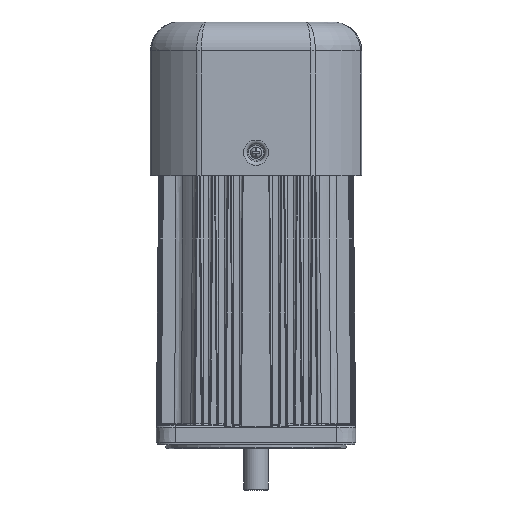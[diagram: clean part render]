
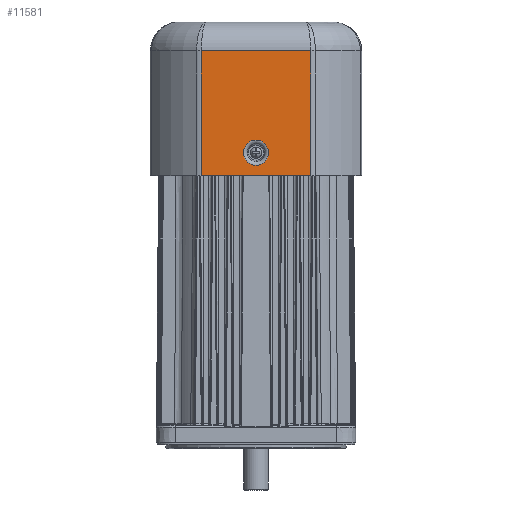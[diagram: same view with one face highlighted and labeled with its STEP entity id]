
A CAD part, front view. The second image highlights one B-rep face of the part: STEP entity #11581.
In plain terms, the highlighted planar face has unit normal (0, -1, 0).
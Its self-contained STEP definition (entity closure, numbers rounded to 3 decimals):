
#13 = DIRECTION ( 'NONE',  ( 0., 1., 0. ) ) ;
#446 = ORIENTED_EDGE ( 'NONE', *, *, #36204, .F. ) ;
#1482 = VERTEX_POINT ( 'NONE', #30275 ) ;
#1580 = DIRECTION ( 'NONE',  ( -1., 0., 0. ) ) ;
#3496 = ORIENTED_EDGE ( 'NONE', *, *, #32524, .T. ) ;
#4381 = FACE_OUTER_BOUND ( 'NONE', #5954, .T. ) ;
#5954 = EDGE_LOOP ( 'NONE', ( #3496, #34551, #446, #9127 ) ) ;
#6241 = LINE ( 'NONE', #20369, #44510 ) ;
#6859 = CARTESIAN_POINT ( 'NONE',  ( -28.395, -54.971, 139. ) ) ;
#7609 = FACE_BOUND ( 'NONE', #32146, .T. ) ;
#7873 = EDGE_CURVE ( 'NONE', #19354, #19354, #47745, .T. ) ;
#9127 = ORIENTED_EDGE ( 'NONE', *, *, #27623, .T. ) ;
#10249 = CARTESIAN_POINT ( 'NONE',  ( -28.395, -54.971, 204. ) ) ;
#10876 = CARTESIAN_POINT ( 'NONE',  ( 28.395, -54.971, 204. ) ) ;
#11581 = ADVANCED_FACE ( 'NONE', ( #7609, #4381 ), #33850, .T. ) ;
#13614 = VERTEX_POINT ( 'NONE', #10249 ) ;
#15039 = DIRECTION ( 'NONE',  ( 0., -1., 0. ) ) ;
#15080 = DIRECTION ( 'NONE',  ( 0., 0., -1. ) ) ;
#15794 = VERTEX_POINT ( 'NONE', #10876 ) ;
#19106 = CARTESIAN_POINT ( 'NONE',  ( 0., -54.971, 139. ) ) ;
#19354 = VERTEX_POINT ( 'NONE', #41402 ) ;
#20342 = AXIS2_PLACEMENT_3D ( 'NONE', #26422, #15039, #42006 ) ;
#20369 = CARTESIAN_POINT ( 'NONE',  ( -28.395, -54.971, 204. ) ) ;
#21596 = LINE ( 'NONE', #19106, #33096 ) ;
#26422 = CARTESIAN_POINT ( 'NONE',  ( 0., -54.971, 139. ) ) ;
#26424 = AXIS2_PLACEMENT_3D ( 'NONE', #45016, #13, #15080 ) ;
#27519 = LINE ( 'NONE', #39647, #41291 ) ;
#27623 = EDGE_CURVE ( 'NONE', #1482, #39008, #21596, .T. ) ;
#28289 = CARTESIAN_POINT ( 'NONE',  ( 28.395, -54.971, 139. ) ) ;
#30275 = CARTESIAN_POINT ( 'NONE',  ( -28.395, -54.971, 139. ) ) ;
#31721 = DIRECTION ( 'NONE',  ( 0., 0., 1. ) ) ;
#32146 = EDGE_LOOP ( 'NONE', ( #41675 ) ) ;
#32524 = EDGE_CURVE ( 'NONE', #39008, #15794, #27519, .T. ) ;
#33096 = VECTOR ( 'NONE', #38153, 1000. ) ;
#33720 = EDGE_CURVE ( 'NONE', #15794, #13614, #6241, .T. ) ;
#33850 = PLANE ( 'NONE',  #20342 ) ;
#34551 = ORIENTED_EDGE ( 'NONE', *, *, #33720, .T. ) ;
#36204 = EDGE_CURVE ( 'NONE', #1482, #13614, #44479, .T. ) ;
#38153 = DIRECTION ( 'NONE',  ( 1., 0., 0. ) ) ;
#38981 = VECTOR ( 'NONE', #48675, 1000. ) ;
#39008 = VERTEX_POINT ( 'NONE', #28289 ) ;
#39647 = CARTESIAN_POINT ( 'NONE',  ( 28.395, -54.971, 139. ) ) ;
#41291 = VECTOR ( 'NONE', #31721, 1000. ) ;
#41402 = CARTESIAN_POINT ( 'NONE',  ( 0., -54.971, 144.453 ) ) ;
#41675 = ORIENTED_EDGE ( 'NONE', *, *, #7873, .T. ) ;
#42006 = DIRECTION ( 'NONE',  ( 0., 0., -1. ) ) ;
#44479 = LINE ( 'NONE', #6859, #38981 ) ;
#44510 = VECTOR ( 'NONE', #1580, 1000. ) ;
#45016 = CARTESIAN_POINT ( 'NONE',  ( 0., -54.971, 151. ) ) ;
#47745 = CIRCLE ( 'NONE', #26424, 6.547 ) ;
#48675 = DIRECTION ( 'NONE',  ( 0., 0., 1. ) ) ;
